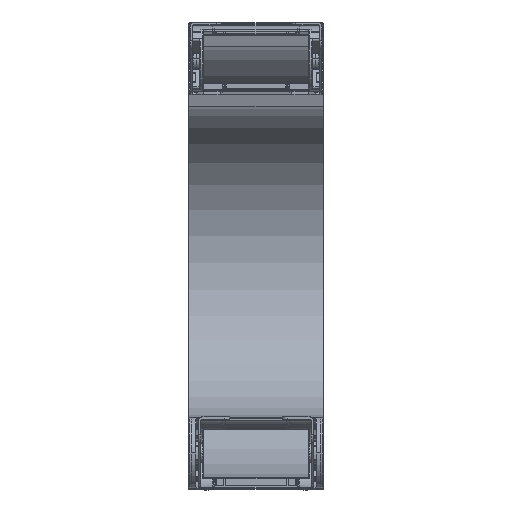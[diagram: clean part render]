
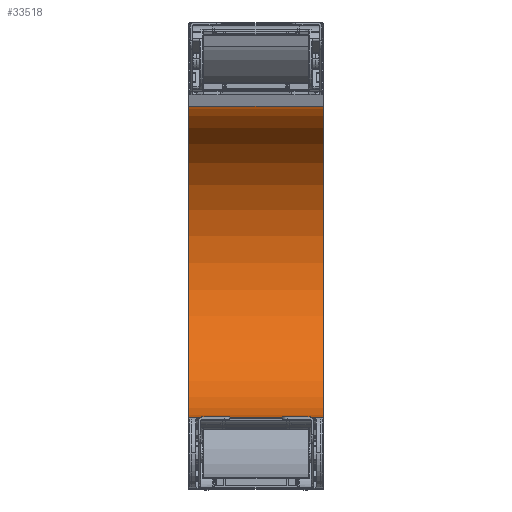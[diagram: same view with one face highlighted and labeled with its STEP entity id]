
A CAD part, top view. The second image highlights one B-rep face of the part: STEP entity #33518.
In plain terms, the highlighted cylindrical face has radius 162.5 mm (diameter 325 mm), a partial arc.
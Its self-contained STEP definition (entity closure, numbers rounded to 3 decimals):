
#32798=CARTESIAN_POINT('',(70.,237.5,-96.));
#32799=DIRECTION('',(1.,0.,0.));
#32800=DIRECTION('',(0.,-1.,0.));
#32801=AXIS2_PLACEMENT_3D('',#32798,#32799,#32800);
#32969=DIRECTION('',(1.,0.,0.));
#32970=VECTOR('',#32969,140.);
#32971=CARTESIAN_POINT('',(-70.,399.992,-97.623));
#32972=LINE('',#32971,#32970);
#32983=DIRECTION('',(1.,0.,0.));
#32984=VECTOR('',#32983,140.);
#32985=CARTESIAN_POINT('',(-70.,75.,-96.));
#32986=LINE('',#32985,#32984);
#32990=CARTESIAN_POINT('',(-70.,237.5,-96.));
#32991=DIRECTION('',(1.,0.,0.));
#32992=DIRECTION('',(0.,-1.,0.));
#32993=AXIS2_PLACEMENT_3D('',#32990,#32991,#32992);
#33176=CARTESIAN_POINT('',(-70.,75.,-96.));
#33177=CARTESIAN_POINT('',(70.,75.,-96.));
#33178=VERTEX_POINT('',#33176);
#33179=VERTEX_POINT('',#33177);
#33192=CARTESIAN_POINT('',(-70.,399.992,-97.623));
#33193=CARTESIAN_POINT('',(70.,399.992,-97.623));
#33194=VERTEX_POINT('',#33192);
#33195=VERTEX_POINT('',#33193);
#33507=CARTESIAN_POINT('',(-1.,237.5,-96.));
#33508=DIRECTION('',(1.,0.,0.));
#33509=DIRECTION('',(0.,1.,0.));
#33510=AXIS2_PLACEMENT_3D('',#33507,#33508,#33509);
#33511=CYLINDRICAL_SURFACE('',#33510,162.5);
#33512=ORIENTED_EDGE('',*,*,#33332,.F.);
#33513=ORIENTED_EDGE('',*,*,#33364,.T.);
#33514=ORIENTED_EDGE('',*,*,#33492,.T.);
#33515=ORIENTED_EDGE('',*,*,#33299,.F.);
#33516=EDGE_LOOP('',(#33512,#33513,#33514,#33515));
#33517=FACE_OUTER_BOUND('',#33516,.F.);
#32802=CIRCLE('',#32801,162.5);
#32994=CIRCLE('',#32993,162.5);
#33299=EDGE_CURVE('',#33179,#33195,#32802,.T.);
#33332=EDGE_CURVE('',#33178,#33179,#32986,.T.);
#33364=EDGE_CURVE('',#33178,#33194,#32994,.T.);
#33492=EDGE_CURVE('',#33194,#33195,#32972,.T.);
#33518=ADVANCED_FACE('',(#33517),#33511,.F.);
